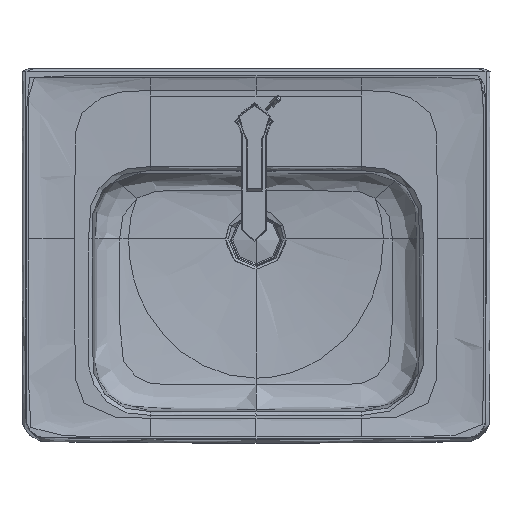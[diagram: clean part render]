
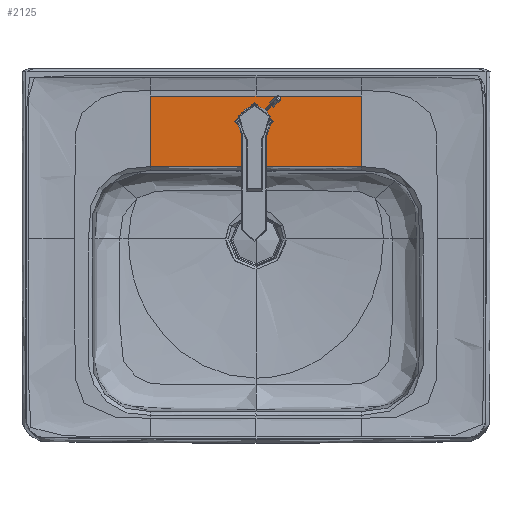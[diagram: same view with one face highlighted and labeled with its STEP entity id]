
A CAD part, top view. The second image highlights one B-rep face of the part: STEP entity #2125.
In plain terms, the highlighted planar face has unit normal (0, 0, 1).
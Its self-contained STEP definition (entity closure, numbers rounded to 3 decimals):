
#40=FACE_BOUND('',#3907,.T.);
#139=(
BOUNDED_CURVE()
B_SPLINE_CURVE(2,(#100134,#100135,#100136,#100137,#100138),
 .UNSPECIFIED.,.F.,.F.)
B_SPLINE_CURVE_WITH_KNOTS((3,2,3),(0.,27.489,54.978),
 .UNSPECIFIED.)
CURVE()
GEOMETRIC_REPRESENTATION_ITEM()
RATIONAL_B_SPLINE_CURVE((1.,0.707,1.,0.707,1.))
REPRESENTATION_ITEM('')
);
#206=(
BOUNDED_CURVE()
B_SPLINE_CURVE(2,(#102021,#102022,#102023,#102024,#102025),
 .UNSPECIFIED.,.F.,.F.)
B_SPLINE_CURVE_WITH_KNOTS((3,2,3),(0.,27.489,54.978),
 .UNSPECIFIED.)
CURVE()
GEOMETRIC_REPRESENTATION_ITEM()
RATIONAL_B_SPLINE_CURVE((1.,0.707,1.,0.707,1.))
REPRESENTATION_ITEM('')
);
#1087=PLANE('',#13647);
#2125=ADVANCED_FACE('',(#3012,#40),#1087,.T.);
#3012=FACE_OUTER_BOUND('',#3906,.T.);
#3906=EDGE_LOOP('',(#6355,#6356,#6357,#6358,#6359,#6360));
#3907=EDGE_LOOP('',(#6361,#6362));
#6355=ORIENTED_EDGE('',*,*,#9671,.F.);
#6356=ORIENTED_EDGE('',*,*,#9672,.F.);
#6357=ORIENTED_EDGE('',*,*,#9673,.F.);
#6358=ORIENTED_EDGE('',*,*,#9674,.F.);
#6359=ORIENTED_EDGE('',*,*,#9675,.T.);
#6360=ORIENTED_EDGE('',*,*,#9670,.F.);
#6361=ORIENTED_EDGE('',*,*,#9401,.T.);
#6362=ORIENTED_EDGE('',*,*,#9158,.T.);
#9158=EDGE_CURVE('',#12426,#12424,#139,.T.);
#9401=EDGE_CURVE('',#12424,#12426,#206,.T.);
#9670=EDGE_CURVE('',#12637,#12620,#11664,.T.);
#9671=EDGE_CURVE('',#12404,#12637,#11665,.T.);
#9672=EDGE_CURVE('',#12403,#12404,#11666,.T.);
#9673=EDGE_CURVE('',#12415,#12403,#11667,.T.);
#9674=EDGE_CURVE('',#12621,#12415,#11668,.T.);
#9675=EDGE_CURVE('',#12621,#12620,#11669,.T.);
#11664=B_SPLINE_CURVE_WITH_KNOTS('',5,(#105025,#105026,#105027,#105028,
#105029,#105030,#105031,#105032,#105033,#105034,#105035,#105036,#105037,
#105038,#105039,#105040,#105041,#105042,#105043,#105044,#105045,#105046,
#105047,#105048,#105049,#105050,#105051),.UNSPECIFIED.,.F.,.F.,(6,3,3,3,
3,3,3,3,6),(161.636,161.737,213.199,257.778,283.29,
290.736,306.483,328.512,350.592),
 .UNSPECIFIED.);
#11665=B_SPLINE_CURVE_WITH_KNOTS('',5,(#105052,#105053,#105054,#105055,
#105056,#105057,#105058,#105059,#105060,#105061,#105062,#105063,#105064,
#105065,#105066,#105067,#105068,#105069,#105070,#105071,#105072,#105073,
#105074,#105075,#105076,#105077,#105078),.UNSPECIFIED.,.F.,.F.,(6,3,3,3,
3,3,3,3,6),(-451.759,-429.724,-410.462,-391.199,
-382.721,-374.345,-347.109,-297.939,-262.57),
 .UNSPECIFIED.);
#11666=B_SPLINE_CURVE_WITH_KNOTS('',3,(#105079,#105080,#105081,#105082),
 .UNSPECIFIED.,.F.,.F.,(4,4),(-206.525,-116.272),
 .UNSPECIFIED.);
#11667=B_SPLINE_CURVE_WITH_KNOTS('',5,(#105083,#105084,#105085,#105086,
#105087,#105088),.UNSPECIFIED.,.F.,.F.,(6,6),(-67.5,67.5),
 .UNSPECIFIED.);
#11668=B_SPLINE_CURVE_WITH_KNOTS('',5,(#105089,#105090,#105091,#105092,
#105093,#105094),.UNSPECIFIED.,.F.,.F.,(6,6),(-67.5,67.5),
 .UNSPECIFIED.);
#11669=B_SPLINE_CURVE_WITH_KNOTS('',3,(#105095,#105096,#105097,#105098),
 .UNSPECIFIED.,.F.,.F.,(4,4),(-206.525,-116.272),
 .UNSPECIFIED.);
#12403=VERTEX_POINT('',#94032);
#12404=VERTEX_POINT('',#94033);
#12415=VERTEX_POINT('',#94044);
#12424=VERTEX_POINT('',#94053);
#12426=VERTEX_POINT('',#94055);
#12620=VERTEX_POINT('',#94249);
#12621=VERTEX_POINT('',#94250);
#12637=VERTEX_POINT('',#94266);
#13647=AXIS2_PLACEMENT_3D('',#92410,#13804,$);
#13804=DIRECTION('',(0.,0.,1.));
#92410=CARTESIAN_POINT('',(161.691,215.303,-10.525));
#94032=CARTESIAN_POINT('',(134.636,204.965,-10.525));
#94033=CARTESIAN_POINT('',(134.636,114.713,-10.525));
#94044=CARTESIAN_POINT('',(-0.364,204.965,-10.525));
#94053=CARTESIAN_POINT('',(-0.364,189.465,-10.525));
#94055=CARTESIAN_POINT('',(-0.364,154.465,-10.525));
#94249=CARTESIAN_POINT('',(-135.364,114.713,-10.525));
#94250=CARTESIAN_POINT('',(-135.364,204.965,-10.525));
#94266=CARTESIAN_POINT('',(-0.364,114.747,-10.525));
#100134=CARTESIAN_POINT('',(-0.364,154.465,-10.525));
#100135=CARTESIAN_POINT('',(-17.864,154.465,-10.525));
#100136=CARTESIAN_POINT('',(-17.864,171.965,-10.525));
#100137=CARTESIAN_POINT('',(-17.864,189.465,-10.525));
#100138=CARTESIAN_POINT('',(-0.364,189.465,-10.525));
#102021=CARTESIAN_POINT('',(-0.364,189.465,-10.525));
#102022=CARTESIAN_POINT('',(17.136,189.465,-10.525));
#102023=CARTESIAN_POINT('',(17.136,171.965,-10.525));
#102024=CARTESIAN_POINT('',(17.136,154.465,-10.525));
#102025=CARTESIAN_POINT('',(-0.364,154.465,-10.525));
#105025=CARTESIAN_POINT('',(-0.364,114.747,-10.525));
#105026=CARTESIAN_POINT('',(-0.379,114.747,-10.525));
#105027=CARTESIAN_POINT('',(-0.393,114.747,-10.525));
#105028=CARTESIAN_POINT('',(-0.408,114.747,-10.525));
#105029=CARTESIAN_POINT('',(-7.766,114.747,-10.525));
#105030=CARTESIAN_POINT('',(-15.124,114.747,-10.525));
#105031=CARTESIAN_POINT('',(-22.632,114.746,-10.525));
#105032=CARTESIAN_POINT('',(-36.525,114.744,-10.525));
#105033=CARTESIAN_POINT('',(-50.359,114.74,-10.525));
#105034=CARTESIAN_POINT('',(-56.793,114.739,-10.525));
#105035=CARTESIAN_POINT('',(-66.712,114.736,-10.525));
#105036=CARTESIAN_POINT('',(-76.541,114.733,-10.525));
#105037=CARTESIAN_POINT('',(-80.208,114.732,-10.525));
#105038=CARTESIAN_POINT('',(-84.839,114.73,-10.525));
#105039=CARTESIAN_POINT('',(-89.529,114.728,-10.525));
#105040=CARTESIAN_POINT('',(-90.513,114.728,-10.525));
#105041=CARTESIAN_POINT('',(-93.837,114.727,-10.525));
#105042=CARTESIAN_POINT('',(-97.187,114.726,-10.525));
#105043=CARTESIAN_POINT('',(-99.467,114.725,-10.525));
#105044=CARTESIAN_POINT('',(-104.937,114.723,-10.525));
#105045=CARTESIAN_POINT('',(-110.392,114.721,-10.525));
#105046=CARTESIAN_POINT('',(-113.558,114.72,-10.525));
#105047=CARTESIAN_POINT('',(-119.857,114.718,-10.525));
#105048=CARTESIAN_POINT('',(-126.085,114.716,-10.525));
#105049=CARTESIAN_POINT('',(-129.15,114.715,-10.525));
#105050=CARTESIAN_POINT('',(-132.248,114.714,-10.525));
#105051=CARTESIAN_POINT('',(-135.364,114.713,-10.525));
#105052=CARTESIAN_POINT('',(134.636,114.713,-10.525));
#105053=CARTESIAN_POINT('',(131.527,114.714,-10.525));
#105054=CARTESIAN_POINT('',(128.439,114.715,-10.525));
#105055=CARTESIAN_POINT('',(125.388,114.716,-10.525));
#105056=CARTESIAN_POINT('',(119.557,114.718,-10.525));
#105057=CARTESIAN_POINT('',(113.665,114.72,-10.525));
#105058=CARTESIAN_POINT('',(110.901,114.721,-10.525));
#105059=CARTESIAN_POINT('',(105.349,114.723,-10.525));
#105060=CARTESIAN_POINT('',(99.77,114.725,-10.525));
#105061=CARTESIAN_POINT('',(96.978,114.726,-10.525));
#105062=CARTESIAN_POINT('',(92.969,114.727,-10.525));
#105063=CARTESIAN_POINT('',(88.999,114.728,-10.525));
#105064=CARTESIAN_POINT('',(87.864,114.729,-10.525));
#105065=CARTESIAN_POINT('',(85.471,114.73,-10.525));
#105066=CARTESIAN_POINT('',(83.092,114.73,-10.525));
#105067=CARTESIAN_POINT('',(81.913,114.731,-10.525));
#105068=CARTESIAN_POINT('',(76.905,114.732,-10.525));
#105069=CARTESIAN_POINT('',(71.918,114.734,-10.525));
#105070=CARTESIAN_POINT('',(68.117,114.735,-10.525));
#105071=CARTESIAN_POINT('',(57.338,114.738,-10.525));
#105072=CARTESIAN_POINT('',(46.405,114.741,-10.525));
#105073=CARTESIAN_POINT('',(39.202,114.743,-10.525));
#105074=CARTESIAN_POINT('',(26.974,114.745,-10.525));
#105075=CARTESIAN_POINT('',(14.802,114.747,-10.525));
#105076=CARTESIAN_POINT('',(9.73,114.747,-10.525));
#105077=CARTESIAN_POINT('',(4.683,114.747,-10.525));
#105078=CARTESIAN_POINT('',(-0.364,114.747,-10.525));
#105079=CARTESIAN_POINT('',(134.636,204.965,-10.525));
#105080=CARTESIAN_POINT('',(134.636,174.881,-10.525));
#105081=CARTESIAN_POINT('',(134.636,144.797,-10.525));
#105082=CARTESIAN_POINT('',(134.636,114.713,-10.525));
#105083=CARTESIAN_POINT('',(-0.364,204.965,-10.525));
#105084=CARTESIAN_POINT('',(26.636,204.965,-10.525));
#105085=CARTESIAN_POINT('',(53.636,204.965,-10.525));
#105086=CARTESIAN_POINT('',(80.636,204.965,-10.525));
#105087=CARTESIAN_POINT('',(107.636,204.965,-10.525));
#105088=CARTESIAN_POINT('',(134.636,204.965,-10.525));
#105089=CARTESIAN_POINT('',(-135.364,204.965,-10.525));
#105090=CARTESIAN_POINT('',(-108.364,204.965,-10.525));
#105091=CARTESIAN_POINT('',(-81.364,204.965,-10.525));
#105092=CARTESIAN_POINT('',(-54.364,204.965,-10.525));
#105093=CARTESIAN_POINT('',(-27.364,204.965,-10.525));
#105094=CARTESIAN_POINT('',(-0.364,204.965,-10.525));
#105095=CARTESIAN_POINT('',(-135.364,204.965,-10.525));
#105096=CARTESIAN_POINT('',(-135.364,174.881,-10.525));
#105097=CARTESIAN_POINT('',(-135.364,144.797,-10.525));
#105098=CARTESIAN_POINT('',(-135.364,114.713,-10.525));
